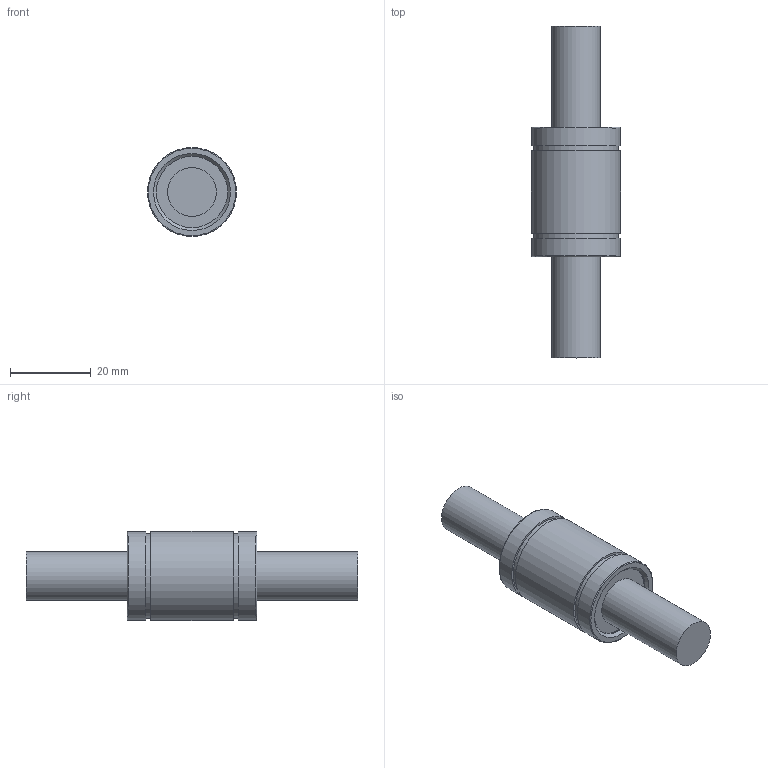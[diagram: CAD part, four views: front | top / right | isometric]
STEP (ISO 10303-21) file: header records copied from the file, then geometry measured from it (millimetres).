
FILE_DESCRIPTION((''),'2;1');
FILE_NAME('D:\STEP\EUROPE\BLANK\LME\LME12.stp','2013-02-05T17:48:21',('user2'),(''),'Autodesk Inventor 2012','Autodesk Inventor 2012','');
FILE_SCHEMA(('AUTOMOTIVE_DESIGN { 1 0 10303 214 1 1 1 1 }'));
Length unit declared in the file: millimetre
Products named in the file (1): LME12
Bounding box: 22 x 82 x 22 mm (x, y, z)
Volume: 17441.9 mm3; surface area: 5113.8 mm2
Topology: 1 solids, 1 shells, 23 faces, 37 edges, 24 vertices
Faces by surface type: plane 10, cylinder 9, torus 2, cone 2
Full cylindrical faces by diameter (mm): 12 x2, 17.6 x2, 21 x2, 22 x3
Entity records: 480 total; most frequent: DIRECTION 92, CARTESIAN_POINT 68, AXIS2_PLACEMENT_3D 46, ORIENTED_EDGE 44, EDGE_LOOP 44, FACE_OUTER_BOUND 23, ADVANCED_FACE 23, VERTEX_POINT 22
